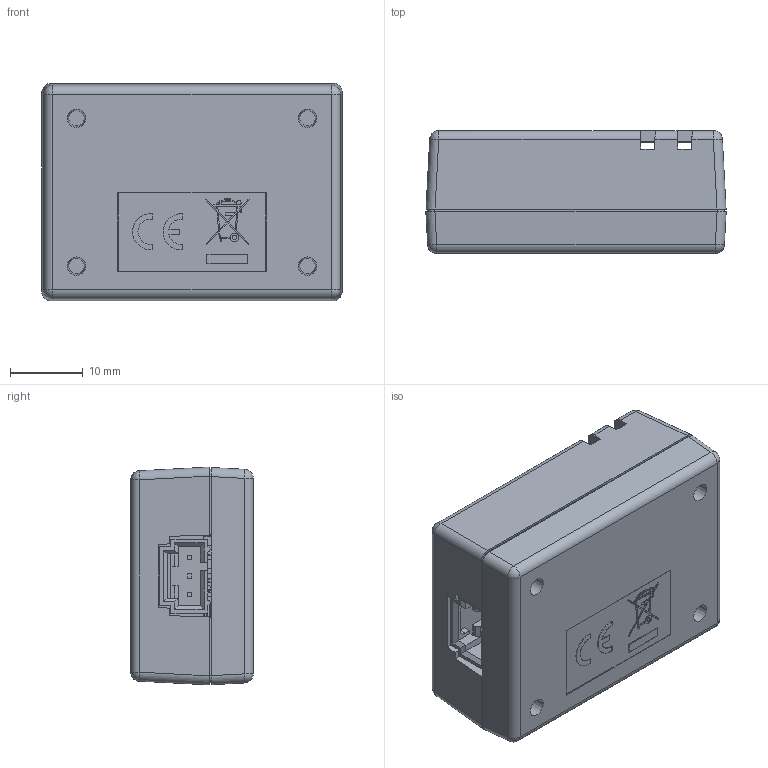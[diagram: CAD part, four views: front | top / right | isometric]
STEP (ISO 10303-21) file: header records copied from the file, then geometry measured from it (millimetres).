
FILE_DESCRIPTION(/* description */ ('Alibre Inc.'),/* implementation_level */ '2;1');
FILE_NAME(/* name */ 'export-3F058D95-CB53-42BE-AD2C-389BA3BFC04E',/* time_stamp */ '2022-09-20T09:45:53-06:00',/* author */ (''),/* organization */ (''),/* preprocessor_version */ 'ST-DEVELOPER v17',/* originating_system */ 'Alibre',/* authorisation */ '');
FILE_SCHEMA (('CONFIG_CONTROL_DESIGN'));
Length unit declared in the file: centimetre
Products named in the file (65): 5850850560; 5850850368; R3; 5850848832; U5; 5850848640; U4; U3; User_Library-TSSOP-20-1; U2; User_Library-SOT-23-1; U1; RV1; 5850850176; 5850849984; R2; R1; 5850849792; L1; 5850849600; 5850849408; FB1; C17; C15; C13; C12; C11; C10; C9; C8; C7; 5850849216; 5850849024; C5; C4; C3; C2; C1; Open CASCADE STEP translator 6.8 1.27.1.2; 705530002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
Bounding box: 41.27 x 16.82 x 29.93 mm (x, y, z)
Volume: 8656.9 mm3; surface area: 12532.5 mm2
Topology: 53 solids, 53 shells, 1115 faces, 2903 edges, 1900 vertices
Faces by surface type: plane 868, cylinder 198, bspline 29, cone 12, sphere 8
Full cylindrical faces by diameter (mm): 0.6 x1, 0.965 x3, 3.124 x4, 3.175 x4
Entity records: 37738 total; most frequent: CARTESIAN_POINT 8139, ORIENTED_EDGE 5004, DIRECTION 3798, EDGE_CURVE 2502, VECTOR 1901, LINE 1901, VERTEX_POINT 1648, AXIS2_PLACEMENT_3D 1265
